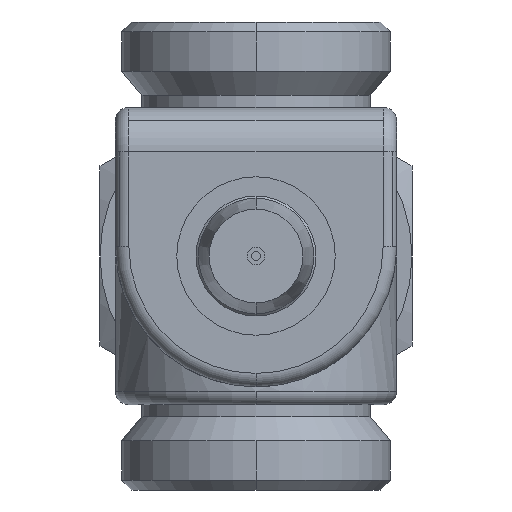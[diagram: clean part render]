
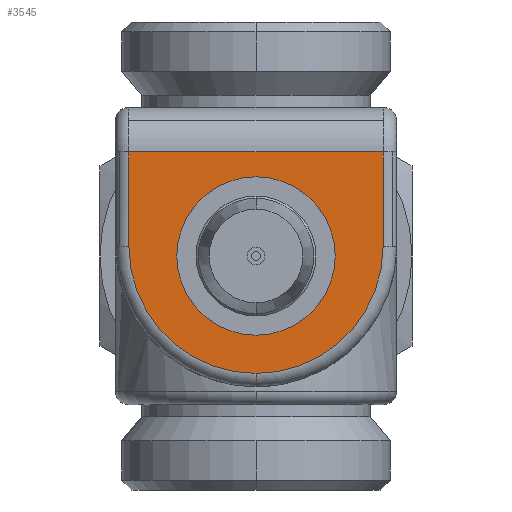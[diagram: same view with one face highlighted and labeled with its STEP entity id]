
A CAD part, front view. The second image highlights one B-rep face of the part: STEP entity #3545.
In plain terms, the highlighted planar face has unit normal (0, -1, 0).
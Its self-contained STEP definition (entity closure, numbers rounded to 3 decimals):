
#1619=CARTESIAN_POINT('',(0.,-43.336,26.157));
#1620=VERTEX_POINT('',#1619);
#1636=CARTESIAN_POINT('',(28.53,-43.336,54.556));
#1637=VERTEX_POINT('',#1636);
#1649=CARTESIAN_POINT('',(0.,-43.336,54.687));
#1650=DIRECTION('',(0.0,1.0,0.0));
#1651=DIRECTION('',(0.0,0.0,-1.0));
#1652=AXIS2_PLACEMENT_3D('',#1649,#1650,#1651);
#1653=CIRCLE('',#1652,28.53);
#1654=EDGE_CURVE('',#1637,#1620,#1653,.T.);
#3355=CARTESIAN_POINT('',(-28.53,-43.336,54.556));
#3356=VERTEX_POINT('',#3355);
#3368=CARTESIAN_POINT('',(-28.53,-43.336,75.843));
#3369=VERTEX_POINT('',#3368);
#3370=CARTESIAN_POINT('',(-28.53,-43.336,54.556));
#3371=DIRECTION('',(0.0,0.0,1.0));
#3372=VECTOR('',#3371,21.286);
#3373=LINE('',#3370,#3372);
#3374=EDGE_CURVE('',#3356,#3369,#3373,.T.);
#3411=CARTESIAN_POINT('',(0.,-43.336,54.687));
#3412=DIRECTION('',(0.0,1.0,0.0));
#3413=DIRECTION('',(0.0,0.0,-1.0));
#3414=AXIS2_PLACEMENT_3D('',#3411,#3412,#3413);
#3415=CIRCLE('',#3414,28.53);
#3416=EDGE_CURVE('',#1620,#3356,#3415,.T.);
#3429=CARTESIAN_POINT('',(28.53,-43.336,75.843));
#3430=VERTEX_POINT('',#3429);
#3474=CARTESIAN_POINT('',(28.53,-43.336,75.843));
#3475=DIRECTION('',(0.0,0.0,-1.0));
#3476=VECTOR('',#3475,21.286);
#3477=LINE('',#3474,#3476);
#3478=EDGE_CURVE('',#3430,#1637,#3477,.T.);
#3528=CARTESIAN_POINT('',(0.,-43.336,54.5));
#3529=DIRECTION('',(0.0,1.0,0.0));
#3530=DIRECTION('',(0.0,0.0,-1.0));
#3531=AXIS2_PLACEMENT_3D('',#3528,#3529,#3530);
#3532=PLANE('',#3531);
#3533=ORIENTED_EDGE('',*,*,#3374,.F.);
#3534=ORIENTED_EDGE('',*,*,#3416,.F.);
#3535=ORIENTED_EDGE('',*,*,#1654,.F.);
#3536=ORIENTED_EDGE('',*,*,#3478,.F.);
#3537=CARTESIAN_POINT('',(-28.53,-43.336,75.843));
#3538=DIRECTION('',(1.0,0.0,0.0));
#3539=VECTOR('',#3538,57.059);
#3540=LINE('',#3537,#3539);
#3541=EDGE_CURVE('',#3369,#3430,#3540,.T.);
#3542=ORIENTED_EDGE('',*,*,#3541,.F.);
#3543=EDGE_LOOP('',(#3533,#3534,#3535,#3536,#3542));
#3544=FACE_OUTER_BOUND('',#3543,.T.);
#3545=ADVANCED_FACE('',(#3544),#3532,.F.);
